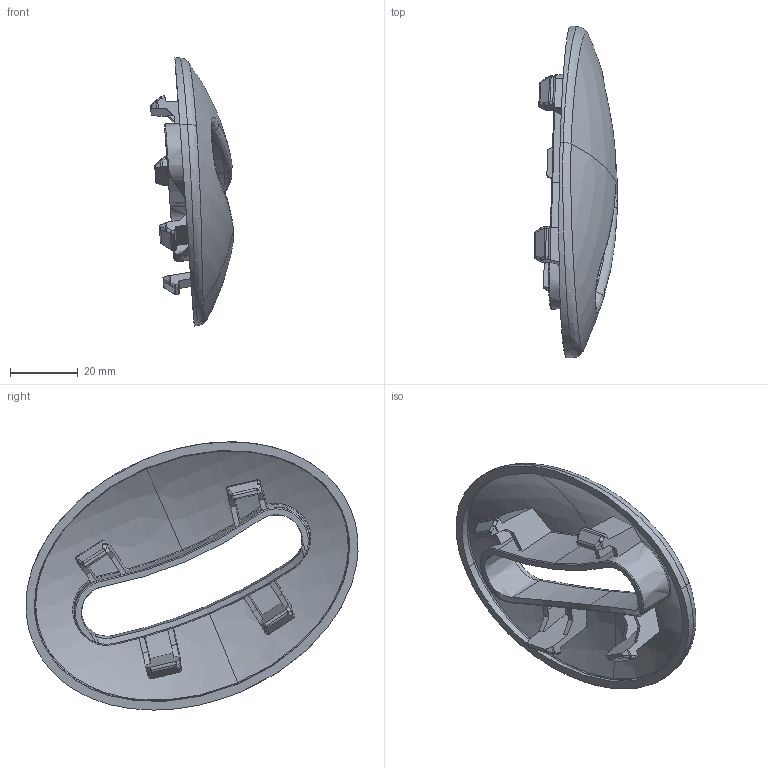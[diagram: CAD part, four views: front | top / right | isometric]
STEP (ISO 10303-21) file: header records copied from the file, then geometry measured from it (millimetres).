
FILE_DESCRIPTION(('CATIA V5 STEP Exchange','CAx-IF Rec.Pracs.--- Model Styling and Organization---1.4--- 2014-01-23'),'2;1');
FILE_NAME('E:\光华荣昌-苏亮\Work\小笑脸\快速样件\xiaoxiaolian.stp','2025-03-27T00:39:58+00:00',('none'),('none'),'CATIA Version 5-6 Release 2018','CATIA V5 STEP AP214','none');
FILE_SCHEMA(('AUTOMOTIVE_DESIGN { 1 0 10303 214 1 1 1 1 }'));
Length unit declared in the file: millimetre
Products named in the file (1): 小笑脸
Bounding box: 24.38 x 97.78 x 79 mm (x, y, z)
Volume: 19848.4 mm3; surface area: 18220.5 mm2
Topology: 1 solids, 1 shells, 227 faces, 596 edges, 354 vertices
Faces by surface type: bspline 132, cylinder 41, plane 38, torus 8, sphere 8
Entity records: 16387 total; most frequent: CARTESIAN_POINT 12376, ORIENTED_EDGE 1160, EDGE_CURVE 580, B_SPLINE_CURVE_WITH_KNOTS 501, VERTEX_POINT 354, DIRECTION 247, EDGE_LOOP 228, ADVANCED_FACE 227
